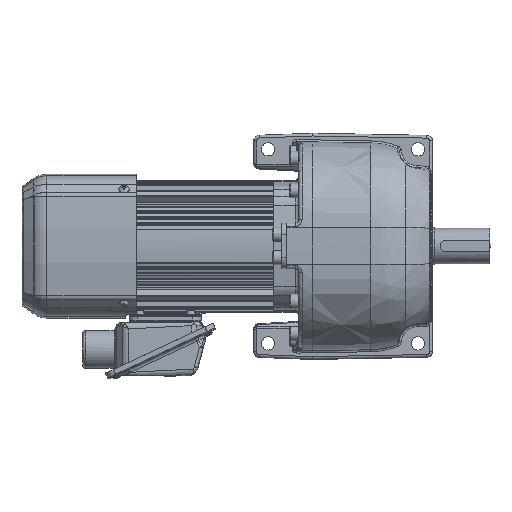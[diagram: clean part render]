
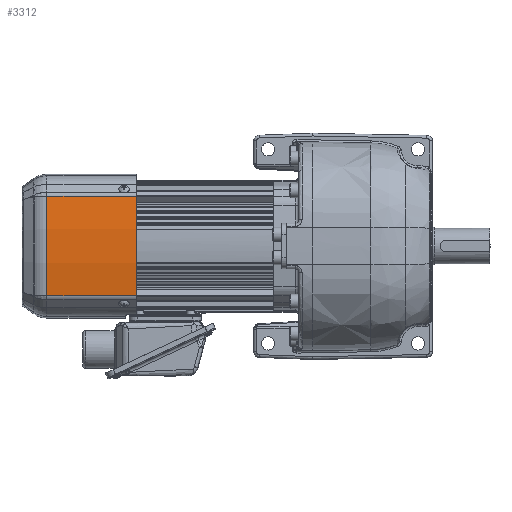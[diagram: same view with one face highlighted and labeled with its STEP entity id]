
A CAD part, top view. The second image highlights one B-rep face of the part: STEP entity #3312.
In plain terms, the highlighted cylindrical face has radius 300.6 mm (diameter 601.2 mm), a partial arc.
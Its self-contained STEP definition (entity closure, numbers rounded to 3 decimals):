
#3312 = ADVANCED_FACE( '', ( #8028 ), #8029, .T. );
#8028 = FACE_OUTER_BOUND( '', #17815, .T. );
#8029 = CYLINDRICAL_SURFACE( '', #17816, 300.6 );
#17815 = EDGE_LOOP( '', ( #35697, #35698, #35699, #35700 ) );
#17816 = AXIS2_PLACEMENT_3D( '', #35701, #35702, #35703 );
#35697 = ORIENTED_EDGE( '', *, *, #49712, .T. );
#35698 = ORIENTED_EDGE( '', *, *, #49713, .T. );
#35699 = ORIENTED_EDGE( '', *, *, #49714, .F. );
#35700 = ORIENTED_EDGE( '', *, *, #49715, .F. );
#35701 = CARTESIAN_POINT( '', ( -111.875, 3.989, -147.6 ) );
#35702 = DIRECTION( '', ( 1., 0., 0. ) );
#35703 = DIRECTION( '', ( 0., 0., -1. ) );
#49712 = EDGE_CURVE( '', #58181, #58182, #58183, .T. );
#49713 = EDGE_CURVE( '', #58182, #57049, #58184, .F. );
#49714 = EDGE_CURVE( '', #58185, #57049, #58186, .T. );
#49715 = EDGE_CURVE( '', #58181, #58185, #58187, .T. );
#57049 = VERTEX_POINT( '', #70323 );
#58181 = VERTEX_POINT( '', #72112 );
#58182 = VERTEX_POINT( '', #72113 );
#58183 = LINE( '', #72114, #72115 );
#58184 = CIRCLE( '', #72116, 300.6 );
#58185 = VERTEX_POINT( '', #72117 );
#58186 = LINE( '', #72118, #72119 );
#58187 = CIRCLE( '', #72120, 300.6 );
#70323 = CARTESIAN_POINT( '', ( -192.38, -40.946, 149.622 ) );
#72112 = CARTESIAN_POINT( '', ( -111.875, 48.924, 149.622 ) );
#72113 = CARTESIAN_POINT( '', ( -192.38, 48.924, 149.622 ) );
#72114 = CARTESIAN_POINT( '', ( -111.875, 48.924, 149.622 ) );
#72115 = VECTOR( '', #84628, 1000. );
#72116 = AXIS2_PLACEMENT_3D( '', #84629, #84630, #84631 );
#72117 = CARTESIAN_POINT( '', ( -111.875, -40.946, 149.622 ) );
#72118 = CARTESIAN_POINT( '', ( -111.875, -40.946, 149.622 ) );
#72119 = VECTOR( '', #84632, 1000. );
#72120 = AXIS2_PLACEMENT_3D( '', #84633, #84634, #84635 );
#84628 = DIRECTION( '', ( -1., 0., 0. ) );
#84629 = CARTESIAN_POINT( '', ( -192.38, 3.989, -147.6 ) );
#84630 = DIRECTION( '', ( -1., 0., 0. ) );
#84631 = DIRECTION( '', ( 0., 0., -1. ) );
#84632 = DIRECTION( '', ( -1., 0., 0. ) );
#84633 = CARTESIAN_POINT( '', ( -111.875, 3.989, -147.6 ) );
#84634 = DIRECTION( '', ( 1., 0., 0. ) );
#84635 = DIRECTION( '', ( 0., -1., 0. ) );
